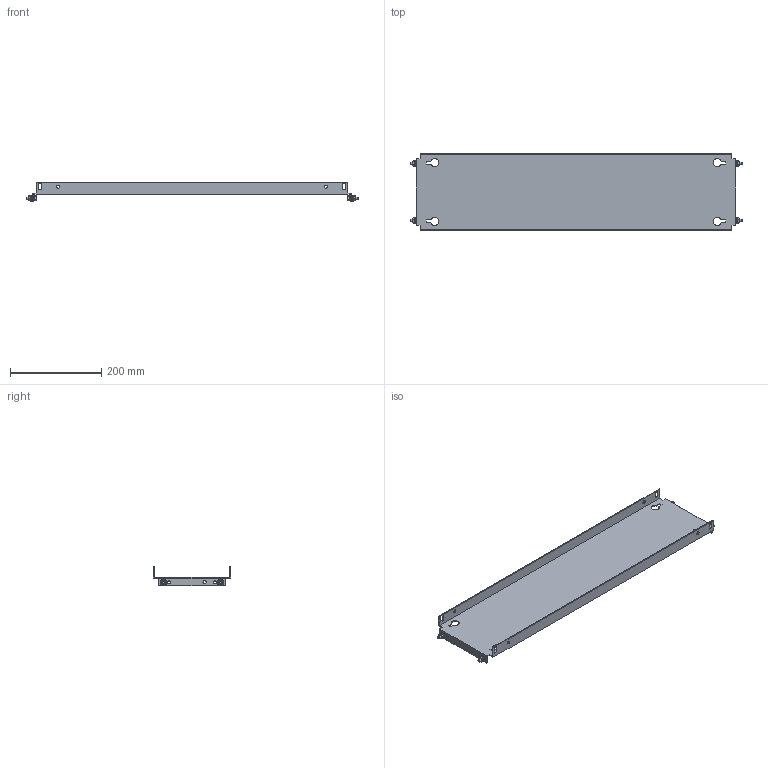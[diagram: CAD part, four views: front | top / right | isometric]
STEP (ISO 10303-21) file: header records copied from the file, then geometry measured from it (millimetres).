
FILE_DESCRIPTION(('Open CASCADE Model'),'2;1');
FILE_NAME('Open CASCADE Shape Model','2025-02-20T13:24:42',('Author'),( 'Open CASCADE'),'Open CASCADE STEP processor 7.8','Open CASCADE 7.8' ,'Unknown');
FILE_SCHEMA(('AUTOMOTIVE_DESIGN { 1 0 10303 214 1 1 1 1 }'));
Length unit declared in the file: millimetre
Products named in the file (4): Compound1; Solid1; Solid2; Solid3
Assembly tree (9 placements, depth 2):
  Compound1
    Solid1
    Solid2  x4
    Solid3  x4
Bounding box: 728 x 169 x 43 mm (x, y, z)
Volume: 313349.8 mm3; surface area: 317739.8 mm2
Topology: 9 solids, 9 shells, 308 faces, 753 edges, 467 vertices
Faces by surface type: plane 150, cone 68, bspline 48, cylinder 30, torus 12
Full cylindrical faces by diameter (mm): 5 x4, 6 x8, 7 x14
Entity records: 4930 total; most frequent: CARTESIAN_POINT 1377, ORIENTED_EDGE 756, DIRECTION 642, EDGE_CURVE 378, VERTEX_POINT 245, LINE 216, VECTOR 216, AXIS2_PLACEMENT_3D 213
